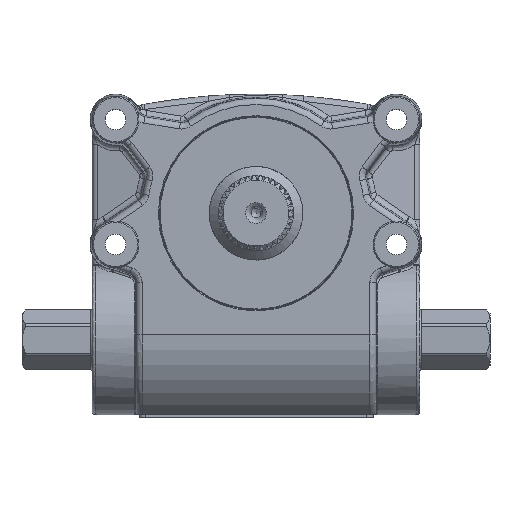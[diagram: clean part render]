
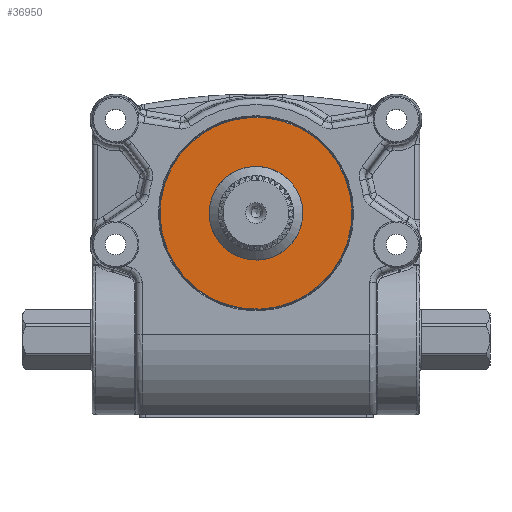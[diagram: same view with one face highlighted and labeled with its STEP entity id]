
A CAD part, top view. The second image highlights one B-rep face of the part: STEP entity #36950.
In plain terms, the highlighted planar face has unit normal (0, 0, 1).
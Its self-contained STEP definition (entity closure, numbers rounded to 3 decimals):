
#484=FACE_BOUND('',#8040,.T.);
#2625=PLANE('',#39049);
#3617=CIRCLE('',#39028,30.75);
#3628=CIRCLE('',#39045,15.);
#5823=FACE_OUTER_BOUND('',#8039,.T.);
#8039=EDGE_LOOP('',(#34371));
#8040=EDGE_LOOP('',(#34372));
#18644=VERTEX_POINT('',#100153);
#18655=VERTEX_POINT('',#100187);
#23877=EDGE_CURVE('',#18644,#18644,#3617,.T.);
#23893=EDGE_CURVE('',#18655,#18655,#3628,.T.);
#34371=ORIENTED_EDGE('',*,*,#23877,.T.);
#34372=ORIENTED_EDGE('',*,*,#23893,.T.);
#36950=ADVANCED_FACE('',(#5823,#484),#2625,.F.);
#39028=AXIS2_PLACEMENT_3D('',#100155,#45996,#45997);
#39045=AXIS2_PLACEMENT_3D('',#100188,#46035,#46036);
#39049=AXIS2_PLACEMENT_3D('',#100195,#46045,#46046);
#45996=DIRECTION('center_axis',(0.,0.,
1.));
#45997=DIRECTION('ref_axis',(-0.924,-0.383,0.));
#46035=DIRECTION('center_axis',(0.,0.,
-1.));
#46036=DIRECTION('ref_axis',(-0.924,-0.383,0.));
#46045=DIRECTION('center_axis',(0.,0.,
-1.));
#46046=DIRECTION('ref_axis',(-0.924,-0.383,0.));
#100153=CARTESIAN_POINT('',(28.405,11.779,27.));
#100155=CARTESIAN_POINT('Origin',(0.,0.,
27.));
#100187=CARTESIAN_POINT('',(13.856,5.746,27.));
#100188=CARTESIAN_POINT('Origin',(0.,0.,
27.));
#100195=CARTESIAN_POINT('Origin',(-11.875,28.636,27.));
